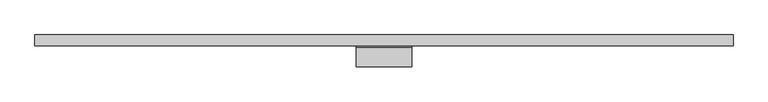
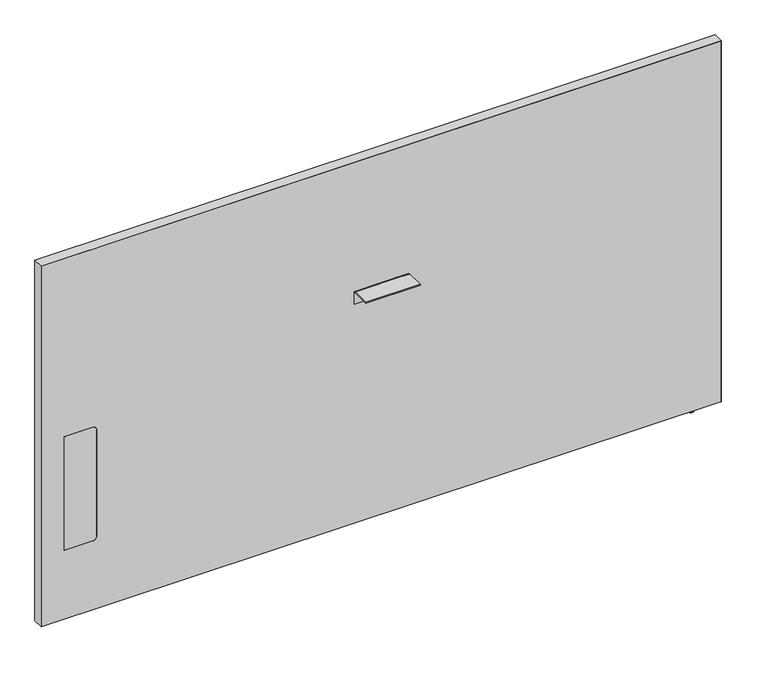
"""IFC4 building model written with IfcOpenShell, lengths in millimetres: furniture geometry, Steelcase - Answer Solution - Boundary Screen - Straight - Single Sided : 42H x 75W."""

from ifc_helpers import new_model, si_unit, point, frame, frame_2d, origin, place, context, project, spatial, polyline, circle_curve, ellipse_curve, trimmed, segment, composite_curve, outline, extrude, source, transform, mapped, element, save
from ifc_brep_helpers import plane_surface, cylinder_surface, revolved_surface, advanced_brep


def furniture_49c647bb(model_context):
    return source(origin(), model_context, "Body", "SolidModel", [
        extrude(outline(composite_curve([segment(polyline([(-86.8398151, 696.4680019), (-86.8398151, 698.5), (-34.9450855, 698.5)]), True, "CONTINUOUS"), segment(trimmed(circle_curve(frame_2d((-34.9450855, 693.2447477)), 5.2552523), [point((-34.9450855, 698.5))], [point((-29.6898332, 693.2447477))], False, "CARTESIAN"), True, "CONTINUOUS"), segment(polyline([(-29.6898332, 693.2447477), (-29.6898332, 660.4), (-31.7218162, 660.4), (-31.7218162, 693.0058743)]), True, "CONTINUOUS"), segment(trimmed(circle_curve(frame_2d((-35.1839438, 693.0058743)), 3.4621276), [point((-31.7218162, 693.0058743))], [point((-35.1839438, 696.4680019))], True, "CARTESIAN"), True, "CONTINUOUS"), segment(polyline([(-35.1839438, 696.4680019), (-86.8398151, 696.4680019)]), True, "CONTINUOUS")], self_intersect=False)), frame((229.8191407, 0.0, 0.0), z_axis=(1.0, 0.0, 0.0), x_axis=(0.0, 1.0, 0.0)), (0.0, 0.0, 1.0), 152.4000969),
        advanced_brep(
        [(1181.3286488, -23.7588726, 9.9059849), (1181.3286488, -5.9309607, 9.9059849), (1181.3286488, -14.8449166, 9.9059849), (1181.3286488, -23.7588726, 2.9673238), (1181.3286488, -5.9309607, 2.9673238), (1181.3286488, -22.7915354, 2.9673238), (1181.3286488, -6.8982978, 2.9673238), (1181.3286488, -22.7915354, 1.6569081), (1181.3286488, -6.8982978, 1.6569081), (1181.3286488, -21.1346274, 0.0), (1181.3286488, -8.5552059, 0.0), (1181.3286488, -14.8449166, 0.0)],
        [
            (0, 1, circle_curve(frame((1181.3286488, -14.8449166, 9.9059849), z_axis=(0.0, 0.0, 1.0), x_axis=(0.0, 1.0, 0.0)), 8.913956)),
            (1, 2),
            (2, 0),
            (1, 0, circle_curve(frame((1181.3286488, -14.8449166, 9.9059849), z_axis=(0.0, 0.0, 1.0), x_axis=(0.0, 1.0, 0.0)), 8.913956)),
            (3, 4, circle_curve(frame((1181.3286488, -14.8449166, 2.9673238), z_axis=(0.0, 0.0, 1.0), x_axis=(0.0, 1.0, 0.0)), 8.913956)),
            (4, 1),
            (0, 3),
            (4, 3, circle_curve(frame((1181.3286488, -14.8449166, 2.9673238), z_axis=(0.0, 0.0, 1.0), x_axis=(0.0, 1.0, 0.0)), 8.913956)),
            (5, 6, circle_curve(frame((1181.3286488, -14.8449166, 2.9673238), z_axis=(0.0, 0.0, 1.0), x_axis=(0.0, 1.0, 0.0)), 7.9466188)),
            (6, 4),
            (3, 5),
            (6, 5, circle_curve(frame((1181.3286488, -14.8449166, 2.9673238), z_axis=(0.0, 0.0, 1.0), x_axis=(0.0, 1.0, 0.0)), 7.9466188)),
            (7, 8, circle_curve(frame((1181.3286488, -14.8449166, 1.6569081), z_axis=(0.0, 0.0, 1.0), x_axis=(0.0, 1.0, 0.0)), 7.9466188)),
            (8, 6),
            (5, 7),
            (8, 7, circle_curve(frame((1181.3286488, -14.8449166, 1.6569081), z_axis=(0.0, 0.0, 1.0), x_axis=(0.0, 1.0, 0.0)), 7.9466188)),
            (9, 10, circle_curve(frame((1181.3286488, -14.8449166, 0.0), z_axis=(0.0, 0.0, 1.0), x_axis=(0.0, 1.0, 0.0)), 6.2897107)),
            (10, 8, circle_curve(frame((1181.3286488, -8.5552059, 1.6569081), z_axis=(1.0, 0.0, 0.0), x_axis=(0.0, 1.0, 0.0)), 1.6569081)),
            (7, 9, circle_curve(frame((1181.3286488, -21.1346274, 1.6569081), z_axis=(1.0, 0.0, 0.0), x_axis=(0.0, -1.0, 0.0)), 1.6569081)),
            (10, 9, circle_curve(frame((1181.3286488, -14.8449166, 0.0), z_axis=(0.0, 0.0, 1.0), x_axis=(0.0, 1.0, 0.0)), 6.2897107)),
            (11, 10),
            (9, 11),
        ],
        [
            plane_surface(frame((1181.3286488, -14.8449166, 9.9059849), z_axis=(0.0, 0.0, 1.0), x_axis=(0.0, 1.0, 0.0))),
            cylinder_surface(frame((1181.3286488, -14.8449166, 9.9059849), z_axis=(0.0, 0.0, -1.0), x_axis=(0.0, 1.0, 0.0)), 8.913956),
            plane_surface(frame((1181.3286488, -14.8449166, 2.9673238), z_axis=(0.0, 0.0, -1.0), x_axis=(0.0, 1.0, 0.0))),
            cylinder_surface(frame((1181.3286488, -14.8449166, 9.9059849), z_axis=(0.0, 0.0, -1.0), x_axis=(0.0, 1.0, 0.0)), 7.9466188),
            revolved_surface(trimmed(ellipse_curve(frame((1181.3286488, -8.5552059, 1.6569081), z_axis=(-1.0, 0.0, 0.0), x_axis=(0.0, 1.0, 0.0)), 1.6569081, 1.6569081), [point((1181.3286488, -6.8982978, 1.6569081))], [point((1181.3286488, -8.5552059, 0.0))], True, "CARTESIAN"), (1181.3286488, -14.8449166, 9.9059849), (0.0, 0.0, -1.0)),
            plane_surface(frame((1181.3286488, -14.8449166, 0.0), z_axis=(0.0, 0.0, -1.0), x_axis=(0.0, 1.0, 0.0))),
        ],
        [
            (0, [[1, 2, 3]]),
            (0, [[4, -3, -2]]),
            (1, [[5, 6, -1, 7]]),
            (1, [[8, -7, -4, -6]]),
            (2, [[9, 10, -5, 11]]),
            (2, [[12, -11, -8, -10]]),
            (3, [[13, 14, -9, 15]]),
            (3, [[16, -15, -12, -14]]),
            (4, [[17, 18, -13, 19]]),
            (4, [[20, -19, -16, -18]]),
            (5, [[21, -17, 22]]),
            (5, [[-22, -20, -21]]),
        ],
    ),
        advanced_brep(
        [(1257.4780168, 0.0, 1076.742118), (1257.4780168, 0.0, 9.9059849), (-645.4902221, 0.0, 9.9059849), (-645.4902221, 0.0, 1076.742118), (1257.4780168, -29.6898332, 1076.742118), (-645.4902221, -29.6898332, 1076.742118), (-645.4902221, -29.6898332, 9.9059849), (1257.4780168, -29.6898332, 9.9059849), (-501.1463873, -29.6898332, 549.6162029), (-490.9863873, -29.6898332, 539.4562029), (-490.9863873, -29.6898332, 223.9362137), (-501.1463873, -29.6898332, 213.7762137), (-580.800285, -29.6898332, 213.7762137), (-580.800285, -29.6898332, 549.6162029), (-580.800285, -29.0550397, 549.6162029), (-501.1463873, -29.0550397, 549.6162029), (-580.800285, -29.0550397, 213.7762137), (-501.1463873, -29.0550397, 213.7762137), (-490.9863873, -29.0550397, 223.9362137), (-490.9863873, -29.0550397, 539.4562029)],
        [
            (0, 1),
            (1, 2),
            (2, 3),
            (3, 0),
            (4, 5),
            (5, 6),
            (6, 7),
            (7, 4),
            (8, 9, circle_curve(frame((-501.1463873, -29.6898332, 539.4562029), z_axis=(0.0, 1.0, 0.0), x_axis=(0.0, 0.0, 1.0)), 10.16)),
            (9, 10),
            (10, 11, circle_curve(frame((-501.1463873, -29.6898332, 223.9362137), z_axis=(0.0, 1.0, 0.0), x_axis=(0.0, 0.0, 1.0)), 10.16)),
            (11, 12),
            (12, 13),
            (13, 8),
            (0, 4),
            (7, 1),
            (6, 2),
            (5, 3),
            (13, 14),
            (14, 15),
            (15, 8),
            (12, 16),
            (16, 14),
            (11, 17),
            (17, 16),
            (10, 18),
            (18, 17, circle_curve(frame((-501.1463873, -29.0550397, 223.9362137), z_axis=(0.0, 1.0, 0.0), x_axis=(0.0, 0.0, 1.0)), 10.16)),
            (9, 19),
            (19, 18),
            (15, 19, circle_curve(frame((-501.1463873, -29.0550397, 539.4562029), z_axis=(0.0, 1.0, 0.0), x_axis=(0.0, 0.0, 1.0)), 10.16)),
        ],
        [
            plane_surface(frame((1257.4780168, 0.0, 1076.742118), z_axis=(0.0, 1.0, 0.0), x_axis=(0.0, 0.0, -1.0))),
            plane_surface(frame((1257.4780168, -29.6898332, 1076.742118), z_axis=(0.0, -1.0, 0.0), x_axis=(0.0, 0.0, 1.0))),
            plane_surface(frame((1257.4780168, 0.0, 1076.742118), z_axis=(1.0, 0.0, 0.0), x_axis=(0.0, -1.0, 0.0))),
            plane_surface(frame((1257.4780168, 0.0, 9.9059849), z_axis=(0.0, 0.0, -1.0), x_axis=(0.0, -1.0, 0.0))),
            plane_surface(frame((-645.4902221, 0.0, 9.9059849), z_axis=(-1.0, 0.0, 0.0), x_axis=(0.0, -1.0, 0.0))),
            plane_surface(frame((-645.4902221, 0.0, 1076.742118), z_axis=(0.0, 0.0, 1.0), x_axis=(0.0, -1.0, 0.0))),
            plane_surface(frame((-501.1463873, 0.0, 549.6162029), z_axis=(0.0, 0.0, -1.0), x_axis=(0.0, -1.0, 0.0))),
            plane_surface(frame((-580.800285, 0.0, 549.6162029), z_axis=(1.0, 0.0, 0.0), x_axis=(0.0, -1.0, 0.0))),
            plane_surface(frame((-580.800285, 0.0, 213.7762137), z_axis=(0.0, 0.0, 1.0), x_axis=(0.0, -1.0, 0.0))),
            revolved_surface(polyline([(-501.1463873, -29.6898332, 234.0962137), (-501.1463873, -29.0550397, 234.0962137)]), (-501.1463873, -29.6898332, 223.9362137), (0.0, -1.0, 0.0)),
            plane_surface(frame((-490.9863873, 0.0, 223.9362137), z_axis=(-1.0, 0.0, 0.0), x_axis=(0.0, -1.0, 0.0))),
            revolved_surface(polyline([(-501.1463873, -29.6898332, 549.6162029), (-501.1463873, -29.0550397, 549.6162029)]), (-501.1463873, -29.6898332, 539.4562029), (0.0, -1.0, 0.0)),
            plane_surface(frame((-490.9863873, -29.0550397, 629.172953), z_axis=(0.0, -1.0, 0.0), x_axis=(0.0, 0.0, 1.0))),
        ],
        [
            (0, [[1, 2, 3, 4]]),
            (1, [[5, 6, 7, 8], [9, 10, 11, 12, 13, 14]]),
            (2, [[-1, 15, -8, 16]]),
            (3, [[-2, -16, -7, 17]]),
            (4, [[-3, -17, -6, 18]]),
            (5, [[-4, -18, -5, -15]]),
            (6, [[-14, 19, 20, 21]]),
            (7, [[-13, 22, 23, -19]]),
            (8, [[-12, 24, 25, -22]]),
            (9, [[-11, 26, 27, -24]]),
            (10, [[-10, 28, 29, -26]]),
            (11, [[-9, -21, 30, -28]]),
            (12, [[-20, -23, -25, -27, -29, -30]]),
        ],
    ),
        extrude(outline(composite_curve([segment(polyline([(549.6162029, -501.1463873), (549.6162029, -580.800285), (213.7762137, -580.800285), (213.7762137, -501.1463873)]), True, "CONTINUOUS"), segment(trimmed(circle_curve(frame_2d((223.9362137, -501.1463873)), 10.16), [point((213.7762137, -501.1463873))], [point((223.9362137, -490.9863873))], False, "CARTESIAN"), True, "CONTINUOUS"), segment(polyline([(223.9362137, -490.9863873), (539.4562029, -490.9863873)]), True, "CONTINUOUS"), segment(trimmed(circle_curve(frame_2d((539.4562029, -501.1463873)), 10.16), [point((539.4562029, -490.9863873))], [point((549.6162029, -501.1463873))], False, "CARTESIAN"), True, "CONTINUOUS")], self_intersect=False)), frame((0.0, -29.6898332, 0.0), z_axis=(0.0, 1.0, 0.0), x_axis=(0.0, 0.0, 1.0)), (0.0, 0.0, 1.0), 0.6347935),
        extrude(outline(polyline([(1077.722, 1258.5191891), (1077.722, -646.4808109), (9.9059849, -646.4808109), (9.9059849, -645.4902221), (1076.742118, -645.4902221), (1076.742118, 1257.4780168), (9.9059849, 1257.4780168), (9.9059849, 1258.5191891), (1077.722, 1258.5191891)])), frame((0.0, -29.6898332, 0.0), z_axis=(0.0, 1.0, 0.0), x_axis=(0.0, 0.0, 1.0)), (0.0, 0.0, 1.0), 29.6898332),
    ])


if __name__ == "__main__":
    model = new_model("IFC4")
    model_context = context("Model", 3, world=origin())
    ifc_project = project(units=[si_unit("LENGTHUNIT", "METRE", prefix="MILLI")], contexts=[model_context])
    site = spatial("IfcSite", under=ifc_project)
    building = spatial("IfcBuilding", under=site)
    placement = place(None, origin())
    furniture_shape = furniture_49c647bb(model_context)
    element("IfcFurniture", 1, ObjectType="Steelcase - Answer Solution - Boundary Screen - Straight - Single Sided : 42H x 75W", at=placement, inside=building, context=model_context, shape_type="MappedRepresentation", body=[
        mapped(furniture_shape, transform((0.0, 0.0, 0.0), x_axis=(1.0, 0.0, 0.0), y_axis=(0.0, 1.0, 0.0), z_axis=(0.0, 0.0, 1.0))),
    ])
    save(model, "model.ifc")
